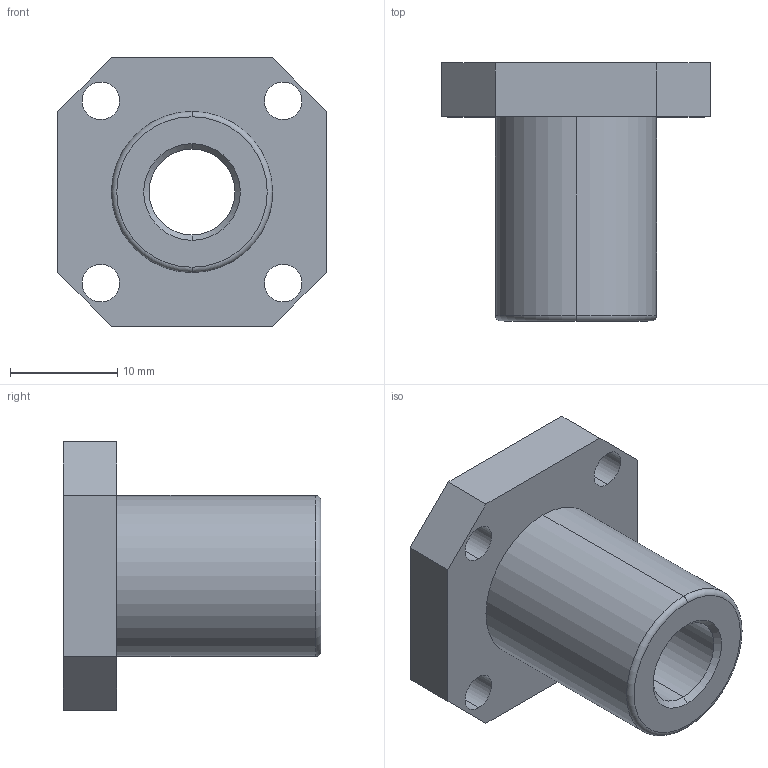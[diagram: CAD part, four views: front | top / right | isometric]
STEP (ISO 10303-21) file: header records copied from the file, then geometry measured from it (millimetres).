
FILE_DESCRIPTION (( 'STEP AP203' ), '1' );
FILE_NAME ('LMK8UU.STEP', '2017-08-10T12:56:56', ( '' ), ( '' ), 'SwSTEP 2.0', 'SolidWorks 2017', '' );
FILE_SCHEMA (( 'CONFIG_CONTROL_DESIGN' ));
Length unit declared in the file: millimetre
Products named in the file (1): LMK8UU
Bounding box: 25 x 24 x 25 mm (x, y, z)
Volume: 4824.7 mm3; surface area: 3130 mm2
Topology: 1 solids, 1 shells, 111 faces, 299 edges, 198 vertices
Faces by surface type: plane 56, bspline 32, cylinder 19, cone 2, torus 2
Entity records: 7374 total; most frequent: CARTESIAN_POINT 4729, ORIENTED_EDGE 598, DIRECTION 426, EDGE_CURVE 299, VERTEX_POINT 198, AXIS2_PLACEMENT_3D 162, EDGE_LOOP 129, B_SPLINE_CURVE_WITH_KNOTS 115
